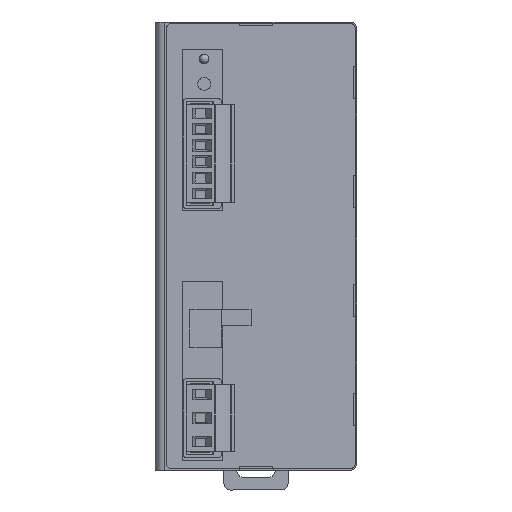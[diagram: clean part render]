
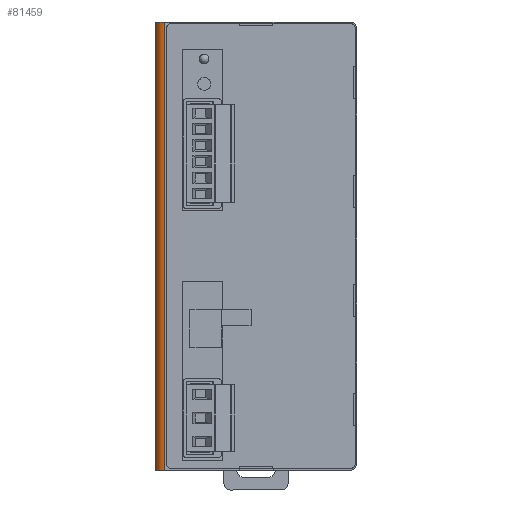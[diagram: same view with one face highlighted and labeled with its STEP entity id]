
A CAD part, left-side view. The second image highlights one B-rep face of the part: STEP entity #81459.
In plain terms, the highlighted cylindrical face has radius 3 mm (diameter 6 mm), a partial arc.
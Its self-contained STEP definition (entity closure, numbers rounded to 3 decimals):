
#3948 = CARTESIAN_POINT ( 'NONE',  ( -55.5, 28.5, 70. ) ) ;
#12424 = ORIENTED_EDGE ( 'NONE', *, *, #81426, .T. ) ;
#15214 = DIRECTION ( 'NONE',  ( 0., 1., 0. ) ) ;
#16977 = FACE_OUTER_BOUND ( 'NONE', #54397, .T. ) ;
#30017 = CIRCLE ( 'NONE', #100106, 3. ) ;
#30903 = VECTOR ( 'NONE', #112075, 1000. ) ;
#33136 = DIRECTION ( 'NONE',  ( 0., 0., 1. ) ) ;
#35632 = DIRECTION ( 'NONE',  ( 0., 1., 0. ) ) ;
#43335 = VERTEX_POINT ( 'NONE', #116317 ) ;
#44117 = VERTEX_POINT ( 'NONE', #73471 ) ;
#54397 = EDGE_LOOP ( 'NONE', ( #126309, #71005, #120540, #12424 ) ) ;
#55075 = CIRCLE ( 'NONE', #85303, 3. ) ;
#57368 = CARTESIAN_POINT ( 'NONE',  ( -55.5, 28.5, 70. ) ) ;
#68430 = DIRECTION ( 'NONE',  ( 0., 0., -1. ) ) ;
#70589 = AXIS2_PLACEMENT_3D ( 'NONE', #57368, #68430, #35632 ) ;
#71005 = ORIENTED_EDGE ( 'NONE', *, *, #82270, .T. ) ;
#73471 = CARTESIAN_POINT ( 'NONE',  ( -58.5, 28.5, 70. ) ) ;
#73509 = DIRECTION ( 'NONE',  ( 0., 0., 1. ) ) ;
#75517 = EDGE_CURVE ( 'NONE', #90794, #43335, #30017, .T. ) ;
#81353 = DIRECTION ( 'NONE',  ( 0., 0., -1. ) ) ;
#81426 = EDGE_CURVE ( 'NONE', #113127, #90794, #119324, .T. ) ;
#81459 = ADVANCED_FACE ( 'NONE', ( #16977 ), #120989, .T. ) ;
#81620 = EDGE_CURVE ( 'NONE', #44117, #113127, #55075, .T. ) ;
#82270 = EDGE_CURVE ( 'NONE', #43335, #44117, #132820, .T. ) ;
#85303 = AXIS2_PLACEMENT_3D ( 'NONE', #3948, #81353, #15214 ) ;
#90794 = VERTEX_POINT ( 'NONE', #109362 ) ;
#99371 = CARTESIAN_POINT ( 'NONE',  ( -55.5, 28.5, -70. ) ) ;
#100106 = AXIS2_PLACEMENT_3D ( 'NONE', #99371, #33136, #110587 ) ;
#100861 = CARTESIAN_POINT ( 'NONE',  ( -55.5, 31.5, 70. ) ) ;
#109362 = CARTESIAN_POINT ( 'NONE',  ( -55.5, 31.5, -70. ) ) ;
#110587 = DIRECTION ( 'NONE',  ( 0., 1., 0. ) ) ;
#112075 = DIRECTION ( 'NONE',  ( 0., 0., -1. ) ) ;
#113127 = VERTEX_POINT ( 'NONE', #114285 ) ;
#114285 = CARTESIAN_POINT ( 'NONE',  ( -55.5, 31.5, 70. ) ) ;
#116317 = CARTESIAN_POINT ( 'NONE',  ( -58.5, 28.5, -70. ) ) ;
#119324 = LINE ( 'NONE', #100861, #30903 ) ;
#120540 = ORIENTED_EDGE ( 'NONE', *, *, #81620, .T. ) ;
#120989 = CYLINDRICAL_SURFACE ( 'NONE', #70589, 3. ) ;
#126309 = ORIENTED_EDGE ( 'NONE', *, *, #75517, .T. ) ;
#128580 = CARTESIAN_POINT ( 'NONE',  ( -58.5, 28.5, 70. ) ) ;
#129378 = VECTOR ( 'NONE', #73509, 1000. ) ;
#132820 = LINE ( 'NONE', #128580, #129378 ) ;
